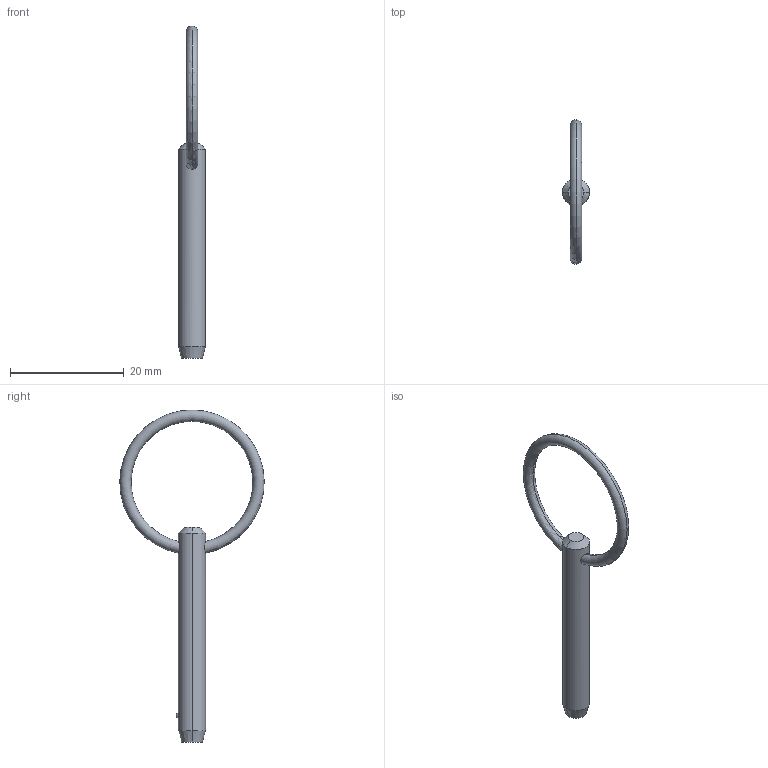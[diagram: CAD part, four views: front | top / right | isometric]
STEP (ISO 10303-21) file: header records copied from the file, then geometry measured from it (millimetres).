
FILE_DESCRIPTION (( 'STEP AP203' ), '1' );
FILE_NAME ('P1250.018-110.step', '2019-07-29T19:30:57', ( '' ), ( '' ), 'SwSTEP 2.0', 'SolidWorks 2017', '' );
FILE_SCHEMA (( 'CONFIG_CONTROL_DESIGN' ));
Length unit declared in the file: millimetre
Products named in the file (1): P1250.018-110
Bounding box: 4.76 x 25.4 x 58.38 mm (x, y, z)
Volume: 873.8 mm3; surface area: 1007.3 mm2
Topology: 1 solids, 1 shells, 12 faces, 28 edges, 17 vertices
Faces by surface type: cone 4, torus 2, sphere 2, cylinder 2, plane 2
Entity records: 471 total; most frequent: CARTESIAN_POINT 138, DIRECTION 56, ORIENTED_EDGE 48, AXIS2_PLACEMENT_3D 25, EDGE_CURVE 24, VERTEX_POINT 15, EDGE_LOOP 15, FACE_OUTER_BOUND 12
